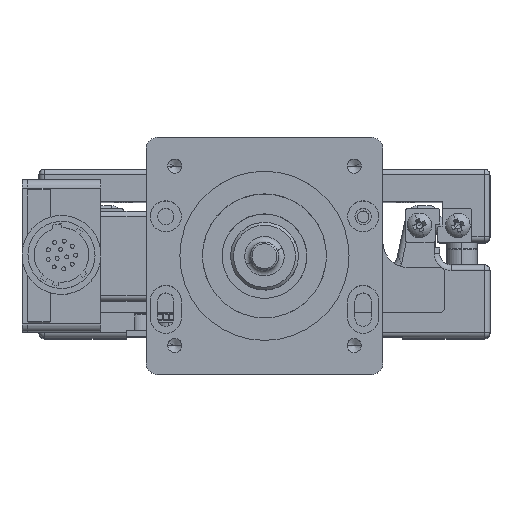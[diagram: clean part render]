
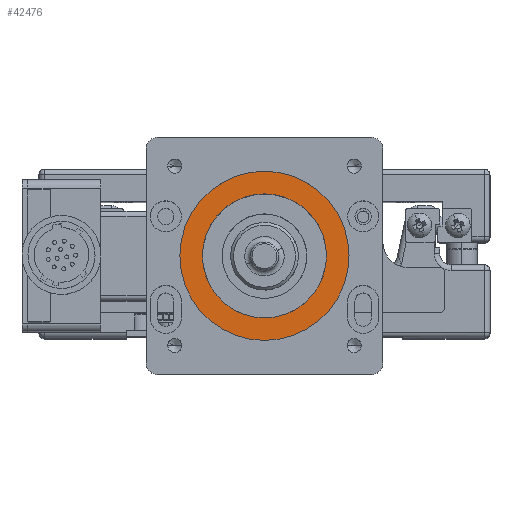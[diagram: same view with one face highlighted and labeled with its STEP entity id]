
A CAD part, top view. The second image highlights one B-rep face of the part: STEP entity #42476.
In plain terms, the highlighted planar face has unit normal (0, 0, 1).
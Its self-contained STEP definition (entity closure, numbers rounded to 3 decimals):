
#1357 = EDGE_CURVE ( 'NONE', #49126, #38365, #8516, .T. ) ;
#3540 = DIRECTION ( 'NONE',  ( 0., 0., -1. ) ) ;
#8516 = CIRCLE ( 'NONE', #41779, 11. ) ;
#9101 = ORIENTED_EDGE ( 'NONE', *, *, #34644, .T. ) ;
#9428 = AXIS2_PLACEMENT_3D ( 'NONE', #48164, #25518, #43690 ) ;
#10719 = CARTESIAN_POINT ( 'NONE',  ( 15., 0., 36.5 ) ) ;
#11294 = CIRCLE ( 'NONE', #9428, 11. ) ;
#12213 = FACE_OUTER_BOUND ( 'NONE', #52356, .T. ) ;
#12311 = ORIENTED_EDGE ( 'NONE', *, *, #17367, .T. ) ;
#12513 = CIRCLE ( 'NONE', #16362, 15. ) ;
#14055 = DIRECTION ( 'NONE',  ( 1., 0., 0. ) ) ;
#16362 = AXIS2_PLACEMENT_3D ( 'NONE', #39975, #58716, #14055 ) ;
#17016 = AXIS2_PLACEMENT_3D ( 'NONE', #57461, #48821, #34829 ) ;
#17367 = EDGE_CURVE ( 'NONE', #29555, #31292, #12513, .T. ) ;
#17820 = CARTESIAN_POINT ( 'NONE',  ( 0., 0., 36.5 ) ) ;
#21643 = EDGE_LOOP ( 'NONE', ( #9101, #54876 ) ) ;
#25518 = DIRECTION ( 'NONE',  ( 0., 0., -1. ) ) ;
#27797 = CARTESIAN_POINT ( 'NONE',  ( -11., 0., 36.5 ) ) ;
#29555 = VERTEX_POINT ( 'NONE', #46771 ) ;
#30373 = FACE_BOUND ( 'NONE', #21643, .T. ) ;
#31292 = VERTEX_POINT ( 'NONE', #10719 ) ;
#34076 = CIRCLE ( 'NONE', #17016, 15. ) ;
#34162 = EDGE_CURVE ( 'NONE', #31292, #29555, #34076, .T. ) ;
#34644 = EDGE_CURVE ( 'NONE', #38365, #49126, #11294, .T. ) ;
#34829 = DIRECTION ( 'NONE',  ( 1., 0., 0. ) ) ;
#38365 = VERTEX_POINT ( 'NONE', #57318 ) ;
#39307 = PLANE ( 'NONE',  #55528 ) ;
#39975 = CARTESIAN_POINT ( 'NONE',  ( 0., 0., 36.5 ) ) ;
#41779 = AXIS2_PLACEMENT_3D ( 'NONE', #17820, #3540, #54160 ) ;
#42476 = ADVANCED_FACE ( 'NONE', ( #12213, #30373 ), #39307, .T. ) ;
#43690 = DIRECTION ( 'NONE',  ( 1., 0., 0. ) ) ;
#44529 = ORIENTED_EDGE ( 'NONE', *, *, #34162, .T. ) ;
#46771 = CARTESIAN_POINT ( 'NONE',  ( -15., 0., 36.5 ) ) ;
#48164 = CARTESIAN_POINT ( 'NONE',  ( 0., 0., 36.5 ) ) ;
#48538 = DIRECTION ( 'NONE',  ( 1., 0., 0. ) ) ;
#48821 = DIRECTION ( 'NONE',  ( 0., 0., 1. ) ) ;
#49126 = VERTEX_POINT ( 'NONE', #27797 ) ;
#52356 = EDGE_LOOP ( 'NONE', ( #44529, #12311 ) ) ;
#53301 = DIRECTION ( 'NONE',  ( 0., 0., 1. ) ) ;
#54160 = DIRECTION ( 'NONE',  ( 1., 0., 0. ) ) ;
#54876 = ORIENTED_EDGE ( 'NONE', *, *, #1357, .T. ) ;
#55528 = AXIS2_PLACEMENT_3D ( 'NONE', #57470, #53301, #48538 ) ;
#57318 = CARTESIAN_POINT ( 'NONE',  ( 11., 0., 36.5 ) ) ;
#57461 = CARTESIAN_POINT ( 'NONE',  ( 0., 0., 36.5 ) ) ;
#57470 = CARTESIAN_POINT ( 'NONE',  ( 0., 0., 36.5 ) ) ;
#58716 = DIRECTION ( 'NONE',  ( 0., 0., 1. ) ) ;
